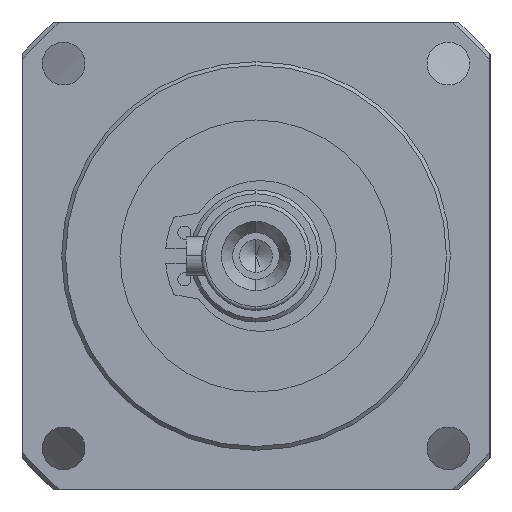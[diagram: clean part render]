
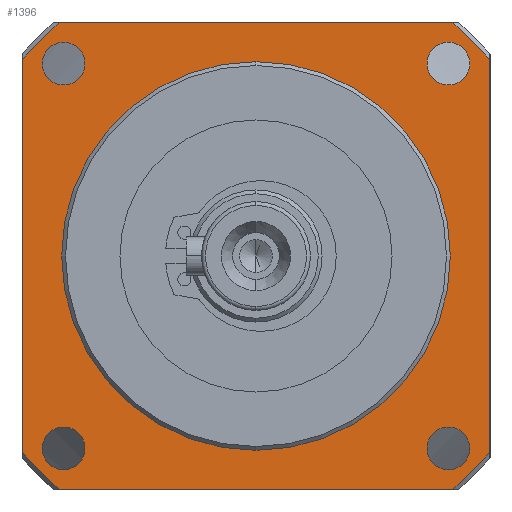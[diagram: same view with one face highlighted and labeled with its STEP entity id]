
A CAD part, left-side view. The second image highlights one B-rep face of the part: STEP entity #1396.
In plain terms, the highlighted planar face has unit normal (-1, 0, 0).
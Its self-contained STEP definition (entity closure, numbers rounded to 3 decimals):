
#827=PLANE('',#6884);
#953=FACE_BOUND('',#2247,.T.);
#954=FACE_BOUND('',#2248,.T.);
#955=FACE_BOUND('',#2249,.T.);
#956=FACE_BOUND('',#2250,.T.);
#957=FACE_BOUND('',#2251,.T.);
#958=FACE_BOUND('',#2252,.T.);
#1396=ADVANCED_FACE('',(#953,#954,#955,#956,#957,#958),#827,.F.);
#2247=EDGE_LOOP('',(#4223,#4224));
#2248=EDGE_LOOP('',(#4225,#4226));
#2249=EDGE_LOOP('',(#4227,#4228));
#2250=EDGE_LOOP('',(#4229,#4230));
#2251=EDGE_LOOP('',(#4231,#4232));
#2252=EDGE_LOOP('',(#4233,#4234,#4235,#4236,#4237,#4238,#4239,#4240));
#2643=LINE('',#10636,#2980);
#2646=LINE('',#10650,#2983);
#2649=LINE('',#10664,#2986);
#2652=LINE('',#10678,#2989);
#2980=VECTOR('',#8468,1.);
#2983=VECTOR('',#8473,1.);
#2986=VECTOR('',#8478,1.);
#2989=VECTOR('',#8483,1.);
#4223=ORIENTED_EDGE('',*,*,#5776,.F.);
#4224=ORIENTED_EDGE('',*,*,#5671,.F.);
#4225=ORIENTED_EDGE('',*,*,#5777,.F.);
#4226=ORIENTED_EDGE('',*,*,#5675,.F.);
#4227=ORIENTED_EDGE('',*,*,#5778,.F.);
#4228=ORIENTED_EDGE('',*,*,#5679,.F.);
#4229=ORIENTED_EDGE('',*,*,#5779,.F.);
#4230=ORIENTED_EDGE('',*,*,#5683,.F.);
#4231=ORIENTED_EDGE('',*,*,#5722,.F.);
#4232=ORIENTED_EDGE('',*,*,#5780,.F.);
#4233=ORIENTED_EDGE('',*,*,#5774,.T.);
#4234=ORIENTED_EDGE('',*,*,#5781,.T.);
#4235=ORIENTED_EDGE('',*,*,#5759,.T.);
#4236=ORIENTED_EDGE('',*,*,#5782,.T.);
#4237=ORIENTED_EDGE('',*,*,#5764,.T.);
#4238=ORIENTED_EDGE('',*,*,#5783,.T.);
#4239=ORIENTED_EDGE('',*,*,#5769,.T.);
#4240=ORIENTED_EDGE('',*,*,#5784,.T.);
#4973=VERTEX_POINT('',#10381);
#4974=VERTEX_POINT('',#10383);
#4977=VERTEX_POINT('',#10390);
#4978=VERTEX_POINT('',#10392);
#4981=VERTEX_POINT('',#10399);
#4982=VERTEX_POINT('',#10401);
#4985=VERTEX_POINT('',#10408);
#4986=VERTEX_POINT('',#10410);
#5021=VERTEX_POINT('',#10495);
#5022=VERTEX_POINT('',#10496);
#5054=VERTEX_POINT('',#10635);
#5055=VERTEX_POINT('',#10637);
#5056=VERTEX_POINT('',#10649);
#5057=VERTEX_POINT('',#10651);
#5058=VERTEX_POINT('',#10663);
#5059=VERTEX_POINT('',#10665);
#5060=VERTEX_POINT('',#10677);
#5061=VERTEX_POINT('',#10679);
#5671=EDGE_CURVE('',#4973,#4974,#6178,.T.);
#5675=EDGE_CURVE('',#4977,#4978,#6180,.T.);
#5679=EDGE_CURVE('',#4981,#4982,#6182,.T.);
#5683=EDGE_CURVE('',#4985,#4986,#6184,.T.);
#5722=EDGE_CURVE('',#5021,#5022,#6204,.T.);
#5759=EDGE_CURVE('',#5055,#5054,#2643,.T.);
#5764=EDGE_CURVE('',#5057,#5056,#2646,.T.);
#5769=EDGE_CURVE('',#5059,#5058,#2649,.T.);
#5774=EDGE_CURVE('',#5061,#5060,#2652,.T.);
#5776=EDGE_CURVE('',#4974,#4973,#6218,.T.);
#5777=EDGE_CURVE('',#4978,#4977,#6219,.T.);
#5778=EDGE_CURVE('',#4982,#4981,#6220,.T.);
#5779=EDGE_CURVE('',#4986,#4985,#6221,.T.);
#5780=EDGE_CURVE('',#5022,#5021,#6222,.T.);
#5781=EDGE_CURVE('',#5060,#5055,#6223,.T.);
#5782=EDGE_CURVE('',#5054,#5057,#6224,.T.);
#5783=EDGE_CURVE('',#5056,#5059,#6225,.T.);
#5784=EDGE_CURVE('',#5058,#5061,#6226,.T.);
#6178=CIRCLE('',#6809,2.75);
#6180=CIRCLE('',#6812,2.75);
#6182=CIRCLE('',#6815,2.75);
#6184=CIRCLE('',#6818,2.75);
#6204=CIRCLE('',#6849,25.);
#6218=CIRCLE('',#6875,2.75);
#6219=CIRCLE('',#6876,2.75);
#6220=CIRCLE('',#6877,2.75);
#6221=CIRCLE('',#6878,2.75);
#6222=CIRCLE('',#6879,25.);
#6223=CIRCLE('',#6880,39.25);
#6224=CIRCLE('',#6881,39.25);
#6225=CIRCLE('',#6882,39.25);
#6226=CIRCLE('',#6883,39.25);
#6809=AXIS2_PLACEMENT_3D('',#10382,#8299,#8300);
#6812=AXIS2_PLACEMENT_3D('',#10391,#8307,#8308);
#6815=AXIS2_PLACEMENT_3D('',#10400,#8315,#8316);
#6818=AXIS2_PLACEMENT_3D('',#10409,#8323,#8324);
#6849=AXIS2_PLACEMENT_3D('',#10494,#8404,#8405);
#6875=AXIS2_PLACEMENT_3D('',#10685,#8486,#8487);
#6876=AXIS2_PLACEMENT_3D('',#10686,#8488,#8489);
#6877=AXIS2_PLACEMENT_3D('',#10687,#8490,#8491);
#6878=AXIS2_PLACEMENT_3D('',#10688,#8492,#8493);
#6879=AXIS2_PLACEMENT_3D('',#10689,#8494,#8495);
#6880=AXIS2_PLACEMENT_3D('',#10690,#8496,#8497);
#6881=AXIS2_PLACEMENT_3D('',#10691,#8498,#8499);
#6882=AXIS2_PLACEMENT_3D('',#10692,#8500,#8501);
#6883=AXIS2_PLACEMENT_3D('',#10693,#8502,#8503);
#6884=AXIS2_PLACEMENT_3D('',#10694,#8504,#8505);
#8299=DIRECTION('',(-1.,0.,0.));
#8300=DIRECTION('',(0.,-1.,0.));
#8307=DIRECTION('',(-1.,0.,0.));
#8308=DIRECTION('',(0.,0.,-1.));
#8315=DIRECTION('',(-1.,0.,0.));
#8316=DIRECTION('',(0.,1.,0.));
#8323=DIRECTION('',(-1.,0.,0.));
#8324=DIRECTION('',(0.,0.,1.));
#8404=DIRECTION('',(-1.,0.,0.));
#8405=DIRECTION('',(0.,0.,1.));
#8468=DIRECTION('',(0.,0.,1.));
#8473=DIRECTION('',(0.,1.,0.));
#8478=DIRECTION('',(0.,0.,-1.));
#8483=DIRECTION('',(0.,-1.,0.));
#8486=DIRECTION('',(-1.,0.,0.));
#8487=DIRECTION('',(0.,-1.,0.));
#8488=DIRECTION('',(-1.,0.,0.));
#8489=DIRECTION('',(0.,0.,-1.));
#8490=DIRECTION('',(-1.,0.,0.));
#8491=DIRECTION('',(0.,1.,0.));
#8492=DIRECTION('',(-1.,0.,0.));
#8493=DIRECTION('',(0.,0.,1.));
#8494=DIRECTION('',(-1.,0.,0.));
#8495=DIRECTION('',(0.,0.,1.));
#8496=DIRECTION('',(-1.,0.,0.));
#8497=DIRECTION('',(0.,0.,1.));
#8498=DIRECTION('',(-1.,0.,0.));
#8499=DIRECTION('',(0.,0.,1.));
#8500=DIRECTION('',(-1.,0.,0.));
#8501=DIRECTION('',(0.,0.,1.));
#8502=DIRECTION('',(-1.,0.,0.));
#8503=DIRECTION('',(0.,0.,1.));
#8504=DIRECTION('',(1.,0.,0.));
#8505=DIRECTION('',(0.,0.,1.));
#10381=CARTESIAN_POINT('',(35.,-24.749,21.999));
#10382=CARTESIAN_POINT('',(35.,-24.749,24.749));
#10383=CARTESIAN_POINT('',(35.,-24.749,27.499));
#10390=CARTESIAN_POINT('',(35.,-24.749,-27.499));
#10391=CARTESIAN_POINT('',(35.,-24.749,-24.749));
#10392=CARTESIAN_POINT('',(35.,-24.749,-21.999));
#10399=CARTESIAN_POINT('',(35.,24.749,-27.499));
#10400=CARTESIAN_POINT('',(35.,24.749,-24.749));
#10401=CARTESIAN_POINT('',(35.,24.749,-21.999));
#10408=CARTESIAN_POINT('',(35.,24.749,21.999));
#10409=CARTESIAN_POINT('',(35.,24.749,24.749));
#10410=CARTESIAN_POINT('',(35.,24.749,27.499));
#10494=CARTESIAN_POINT('',(35.,0.,0.));
#10495=CARTESIAN_POINT('',(35.,0.,25.));
#10496=CARTESIAN_POINT('',(35.,0.,-25.));
#10635=CARTESIAN_POINT('',(35.,-30.,25.309));
#10636=CARTESIAN_POINT('',(35.,-30.,30.));
#10637=CARTESIAN_POINT('',(35.,-30.,-25.309));
#10649=CARTESIAN_POINT('',(35.,25.309,30.));
#10650=CARTESIAN_POINT('',(35.,-30.,30.));
#10651=CARTESIAN_POINT('',(35.,-25.309,30.));
#10663=CARTESIAN_POINT('',(35.,30.,-25.309));
#10664=CARTESIAN_POINT('',(35.,30.,30.));
#10665=CARTESIAN_POINT('',(35.,30.,25.309));
#10677=CARTESIAN_POINT('',(35.,-25.309,-30.));
#10678=CARTESIAN_POINT('',(35.,-30.,-30.));
#10679=CARTESIAN_POINT('',(35.,25.309,-30.));
#10685=CARTESIAN_POINT('',(35.,-24.749,24.749));
#10686=CARTESIAN_POINT('',(35.,-24.749,-24.749));
#10687=CARTESIAN_POINT('',(35.,24.749,-24.749));
#10688=CARTESIAN_POINT('',(35.,24.749,24.749));
#10689=CARTESIAN_POINT('',(35.,0.,0.));
#10690=CARTESIAN_POINT('',(35.,0.,0.));
#10691=CARTESIAN_POINT('',(35.,0.,0.));
#10692=CARTESIAN_POINT('',(35.,0.,0.));
#10693=CARTESIAN_POINT('',(35.,0.,0.));
#10694=CARTESIAN_POINT('',(35.,25.,0.));
